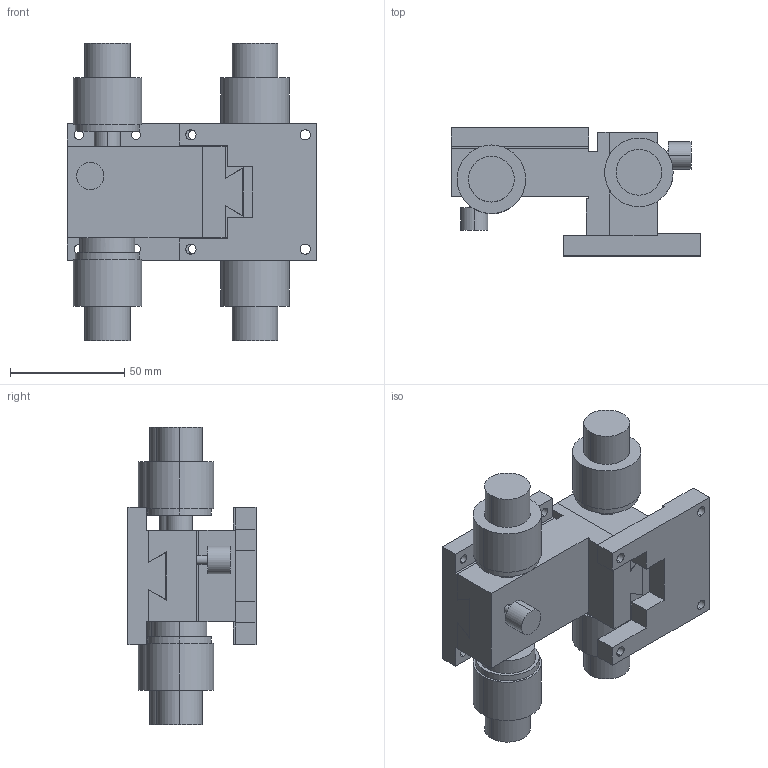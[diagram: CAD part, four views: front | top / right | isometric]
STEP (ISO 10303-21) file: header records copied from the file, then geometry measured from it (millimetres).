
FILE_DESCRIPTION (( 'STEP AP203' ), '1' );
FILE_NAME ('LM-213-2.STEP', '2008-04-02T01:11:26', ( '' ), ( '' ), 'SwSTEP 2.0', 'SolidWorks 2007', '' );
FILE_SCHEMA (( 'CONFIG_CONTROL_DESIGN' ));
Length unit declared in the file: millimetre
Products named in the file (4): LM-213-2; LM-213-2-1_蹬怮椔; LM-213-2-3_蹬怮椔; LM-213-2-2_蹬怮椔
Assembly tree (3 placements, depth 2):
  LM-213-2
    LM-213-2-3_蹬怮椔
    LM-213-2-2_蹬怮椔
    LM-213-2-1_蹬怮椔
Bounding box: 109.02 x 56 x 130 mm (x, y, z)
Volume: 237831.3 mm3; surface area: 69735.5 mm2
Topology: 3 solids, 5 shells, 217 faces, 516 edges, 340 vertices
Faces by surface type: plane 113, cylinder 104
Entity records: 6792 total; most frequent: DIRECTION 1170, CARTESIAN_POINT 1091, ORIENTED_EDGE 1032, EDGE_CURVE 516, AXIS2_PLACEMENT_3D 435, VERTEX_POINT 340, VECTOR 300, LINE 300
